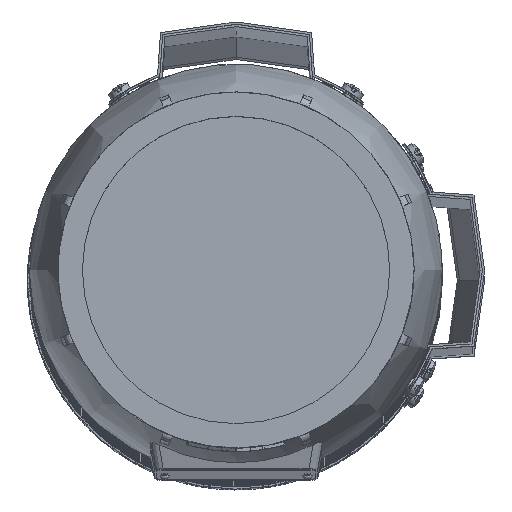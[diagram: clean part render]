
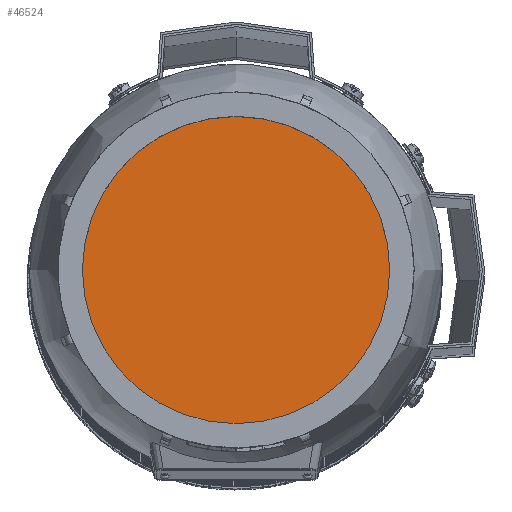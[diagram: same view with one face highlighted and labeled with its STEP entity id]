
A CAD part, top view. The second image highlights one B-rep face of the part: STEP entity #46524.
In plain terms, the highlighted planar face has unit normal (0, 0, 1) as drawn and (0, 1, 0) by its records, which use the part's own axes.
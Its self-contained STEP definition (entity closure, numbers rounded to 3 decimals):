
#9857=ORIENTED_EDGE('',*,*,#23913,.F.);
#23913=EDGE_CURVE('',#30941,#30941,#35671,.T.);
#30941=VERTEX_POINT('',#67180);
#35671=CIRCLE('',#49063,67.736);
#37794=EDGE_LOOP('',(#9857));
#41148=FACE_BOUND('',#37794,.T.);
#44520=PLANE('',#49062);
#46524=ADVANCED_FACE('',(#41148),#44520,.F.);
#49062=AXIS2_PLACEMENT_3D('',#67178,#53669,#53670);
#49063=AXIS2_PLACEMENT_3D('',#67179,#53671,#53672);
#53669=DIRECTION('',(0.,-1.,0.));
#53670=DIRECTION('',(0.,0.,-1.));
#53671=DIRECTION('',(0.,-1.,0.));
#53672=DIRECTION('',(0.,0.,-1.));
#67178=CARTESIAN_POINT('',(0.,154.,0.));
#67179=CARTESIAN_POINT('',(0.,154.,0.));
#67180=CARTESIAN_POINT('',(0.,154.,-67.736));
